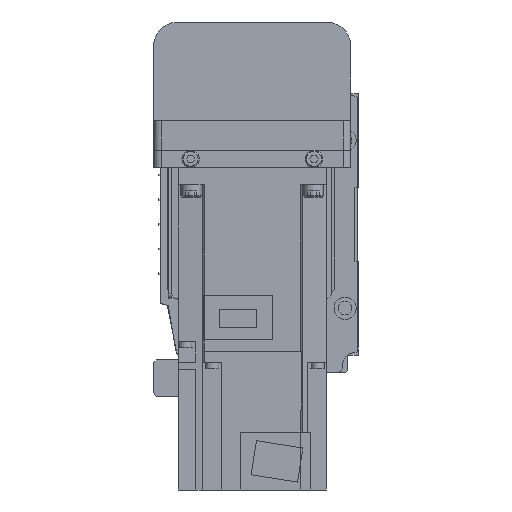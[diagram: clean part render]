
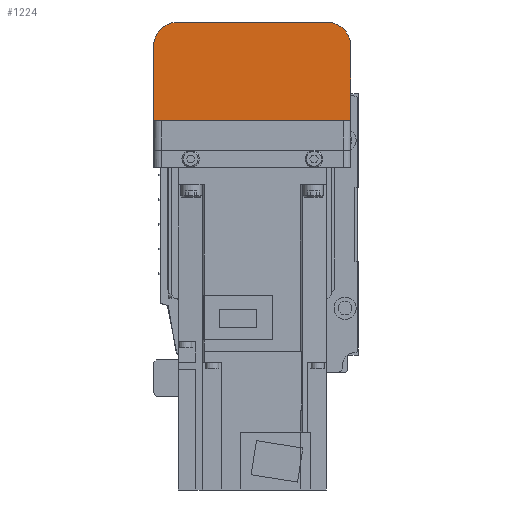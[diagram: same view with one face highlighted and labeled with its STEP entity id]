
A CAD part, left-side view. The second image highlights one B-rep face of the part: STEP entity #1224.
In plain terms, the highlighted planar face has unit normal (-1, 0, 0).
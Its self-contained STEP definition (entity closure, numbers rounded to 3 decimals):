
#1224 = ADVANCED_FACE( '', ( #2998 ), #2999, .F. );
#2998 = FACE_OUTER_BOUND( '', #5486, .T. );
#2999 = PLANE( '', #5487 );
#5486 = EDGE_LOOP( '', ( #8865, #8866, #8867, #8868, #8869, #8870 ) );
#5487 = AXIS2_PLACEMENT_3D( '', #8871, #8872, #8873 );
#8865 = ORIENTED_EDGE( '', *, *, #14846, .F. );
#8866 = ORIENTED_EDGE( '', *, *, #14847, .F. );
#8867 = ORIENTED_EDGE( '', *, *, #14848, .F. );
#8868 = ORIENTED_EDGE( '', *, *, #14849, .F. );
#8869 = ORIENTED_EDGE( '', *, *, #14850, .F. );
#8870 = ORIENTED_EDGE( '', *, *, #14851, .F. );
#8871 = CARTESIAN_POINT( '', ( -192., 37., 7. ) );
#8872 = DIRECTION( '', ( 1., 0., 0. ) );
#8873 = DIRECTION( '', ( 0., 0., -1. ) );
#14846 = EDGE_CURVE( '', #18007, #18008, #18009, .T. );
#14847 = EDGE_CURVE( '', #18010, #18007, #18011, .T. );
#14848 = EDGE_CURVE( '', #18012, #18010, #18013, .T. );
#14849 = EDGE_CURVE( '', #18014, #18012, #18015, .T. );
#14850 = EDGE_CURVE( '', #18016, #18014, #18017, .T. );
#14851 = EDGE_CURVE( '', #18008, #18016, #18018, .T. );
#18007 = VERTEX_POINT( '', #22240 );
#18008 = VERTEX_POINT( '', #22241 );
#18009 = LINE( '', #22242, #22243 );
#18010 = VERTEX_POINT( '', #22244 );
#18011 = LINE( '', #22245, #22246 );
#18012 = VERTEX_POINT( '', #22247 );
#18013 = CIRCLE( '', #22248, 10. );
#18014 = VERTEX_POINT( '', #22249 );
#18015 = LINE( '', #22250, #22251 );
#18016 = VERTEX_POINT( '', #22252 );
#18017 = CIRCLE( '', #22253, 10. );
#18018 = LINE( '', #22254, #22255 );
#22240 = CARTESIAN_POINT( '', ( -192., 40., -12.1 ) );
#22241 = CARTESIAN_POINT( '', ( -192., -40., -12.1 ) );
#22242 = CARTESIAN_POINT( '', ( -192., 50., -12.1 ) );
#22243 = VECTOR( '', #26362, 1000. );
#22244 = CARTESIAN_POINT( '', ( -192., 40., -42. ) );
#22245 = CARTESIAN_POINT( '', ( -192., 40., -42. ) );
#22246 = VECTOR( '', #26363, 1000. );
#22247 = CARTESIAN_POINT( '', ( -192., 30., -52. ) );
#22248 = AXIS2_PLACEMENT_3D( '', #26364, #26365, #26366 );
#22249 = CARTESIAN_POINT( '', ( -192., -30., -52. ) );
#22250 = CARTESIAN_POINT( '', ( -192., -30., -52. ) );
#22251 = VECTOR( '', #26367, 1000. );
#22252 = CARTESIAN_POINT( '', ( -192., -40., -42. ) );
#22253 = AXIS2_PLACEMENT_3D( '', #26368, #26369, #26370 );
#22254 = CARTESIAN_POINT( '', ( -192., -40., -12.1 ) );
#22255 = VECTOR( '', #26371, 1000. );
#26362 = DIRECTION( '', ( 0., -1., 0. ) );
#26363 = DIRECTION( '', ( 0., 0., 1. ) );
#26364 = CARTESIAN_POINT( '', ( -192., 30., -42. ) );
#26365 = DIRECTION( '', ( 1., 0., 0. ) );
#26366 = DIRECTION( '', ( 0., 0., -1. ) );
#26367 = DIRECTION( '', ( 0., 1., 0. ) );
#26368 = CARTESIAN_POINT( '', ( -192., -30., -42. ) );
#26369 = DIRECTION( '', ( 1., 0., 0. ) );
#26370 = DIRECTION( '', ( 0., 0., -1. ) );
#26371 = DIRECTION( '', ( 0., 0., -1. ) );
